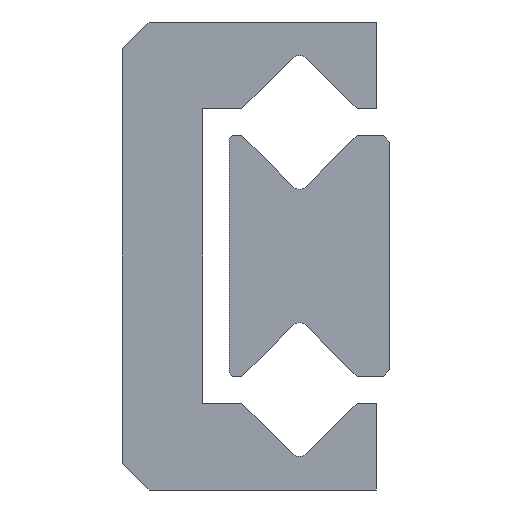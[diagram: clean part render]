
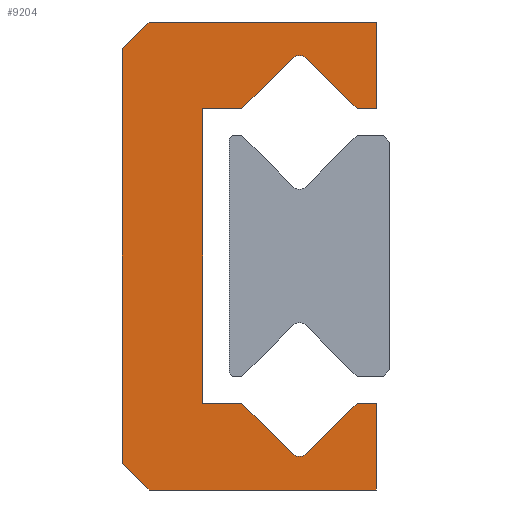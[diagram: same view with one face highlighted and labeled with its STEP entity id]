
A CAD part, left-side view. The second image highlights one B-rep face of the part: STEP entity #9204.
In plain terms, the highlighted planar face has unit normal (-1, 0, 0).
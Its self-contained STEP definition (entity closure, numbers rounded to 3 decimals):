
#296=CIRCLE('',#9991,0.15);
#300=CIRCLE('',#10001,0.15);
#1530=ORIENTED_EDGE('',*,*,#3858,.F.);
#1531=ORIENTED_EDGE('',*,*,#4296,.F.);
#1532=ORIENTED_EDGE('',*,*,#4291,.F.);
#1533=ORIENTED_EDGE('',*,*,#4288,.F.);
#1534=ORIENTED_EDGE('',*,*,#4285,.F.);
#1535=ORIENTED_EDGE('',*,*,#4282,.F.);
#1536=ORIENTED_EDGE('',*,*,#4279,.F.);
#1537=ORIENTED_EDGE('',*,*,#4276,.T.);
#1538=ORIENTED_EDGE('',*,*,#4273,.F.);
#1539=ORIENTED_EDGE('',*,*,#4270,.F.);
#1540=ORIENTED_EDGE('',*,*,#4267,.F.);
#1541=ORIENTED_EDGE('',*,*,#4262,.F.);
#1542=ORIENTED_EDGE('',*,*,#4259,.F.);
#1543=ORIENTED_EDGE('',*,*,#4256,.T.);
#1544=ORIENTED_EDGE('',*,*,#4253,.F.);
#1545=ORIENTED_EDGE('',*,*,#4250,.F.);
#1546=ORIENTED_EDGE('',*,*,#4247,.F.);
#1547=ORIENTED_EDGE('',*,*,#3862,.F.);
#3858=EDGE_CURVE('',#5272,#5273,#6234,.T.);
#3862=EDGE_CURVE('',#5273,#5276,#6238,.T.);
#4247=EDGE_CURVE('',#5276,#5660,#6375,.T.);
#4250=EDGE_CURVE('',#5660,#5662,#6378,.T.);
#4253=EDGE_CURVE('',#5662,#5664,#6381,.T.);
#4256=EDGE_CURVE('',#5666,#5664,#296,.T.);
#4259=EDGE_CURVE('',#5666,#5668,#6385,.T.);
#4262=EDGE_CURVE('',#5668,#5670,#6388,.T.);
#4267=EDGE_CURVE('',#5670,#5674,#6391,.T.);
#4270=EDGE_CURVE('',#5674,#5676,#6394,.T.);
#4273=EDGE_CURVE('',#5676,#5678,#6397,.T.);
#4276=EDGE_CURVE('',#5680,#5678,#300,.T.);
#4279=EDGE_CURVE('',#5680,#5682,#6401,.T.);
#4282=EDGE_CURVE('',#5682,#5684,#6404,.T.);
#4285=EDGE_CURVE('',#5684,#5686,#6407,.T.);
#4288=EDGE_CURVE('',#5686,#5688,#6410,.T.);
#4291=EDGE_CURVE('',#5688,#5690,#6413,.T.);
#4296=EDGE_CURVE('',#5690,#5272,#6416,.T.);
#5272=VERTEX_POINT('',#14013);
#5273=VERTEX_POINT('',#14014);
#5276=VERTEX_POINT('',#14022);
#5660=VERTEX_POINT('',#14792);
#5662=VERTEX_POINT('',#14798);
#5664=VERTEX_POINT('',#14804);
#5666=VERTEX_POINT('',#14810);
#5668=VERTEX_POINT('',#14816);
#5670=VERTEX_POINT('',#14822);
#5674=VERTEX_POINT('',#14832);
#5676=VERTEX_POINT('',#14838);
#5678=VERTEX_POINT('',#14844);
#5680=VERTEX_POINT('',#14850);
#5682=VERTEX_POINT('',#14856);
#5684=VERTEX_POINT('',#14862);
#5686=VERTEX_POINT('',#14868);
#5688=VERTEX_POINT('',#14874);
#5690=VERTEX_POINT('',#14880);
#6234=LINE('',#14012,#7058);
#6238=LINE('',#14021,#7062);
#6375=LINE('',#14791,#7199);
#6378=LINE('',#14797,#7202);
#6381=LINE('',#14803,#7205);
#6385=LINE('',#14815,#7209);
#6388=LINE('',#14821,#7212);
#6391=LINE('',#14831,#7215);
#6394=LINE('',#14837,#7218);
#6397=LINE('',#14843,#7221);
#6401=LINE('',#14855,#7225);
#6404=LINE('',#14861,#7228);
#6407=LINE('',#14867,#7231);
#6410=LINE('',#14873,#7234);
#6413=LINE('',#14879,#7237);
#6416=LINE('',#14889,#7240);
#7058=VECTOR('',#10943,1000.);
#7062=VECTOR('',#10949,1000.);
#7199=VECTOR('',#11584,1000.);
#7202=VECTOR('',#11589,1000.);
#7205=VECTOR('',#11594,1000.);
#7209=VECTOR('',#11606,1000.);
#7212=VECTOR('',#11611,1000.);
#7215=VECTOR('',#11620,1000.);
#7218=VECTOR('',#11625,1000.);
#7221=VECTOR('',#11630,1000.);
#7225=VECTOR('',#11642,1000.);
#7228=VECTOR('',#11647,1000.);
#7231=VECTOR('',#11652,1000.);
#7234=VECTOR('',#11657,1000.);
#7237=VECTOR('',#11662,1000.);
#7240=VECTOR('',#11671,1000.);
#7916=EDGE_LOOP('',(#1530,#1531,#1532,#1533,#1534,#1535,#1536,#1537,#1538,
#1539,#1540,#1541,#1542,#1543,#1544,#1545,#1546,#1547));
#8474=FACE_BOUND('',#7916,.T.);
#8987=PLANE('',#10012);
#9204=ADVANCED_FACE('',(#8474),#8987,.F.);
#9991=AXIS2_PLACEMENT_3D('',#14809,#11599,#11600);
#10001=AXIS2_PLACEMENT_3D('',#14849,#11635,#11636);
#10012=AXIS2_PLACEMENT_3D('',#14892,#11675,#11676);
#10943=DIRECTION('',(0.,-0.707,0.707));
#10949=DIRECTION('',(0.,-1.,0.));
#11584=DIRECTION('',(0.,0.,-1.));
#11589=DIRECTION('',(0.,1.,0.));
#11594=DIRECTION('',(0.,0.707,0.707));
#11599=DIRECTION('',(1.,0.,0.));
#11600=DIRECTION('',(0.,0.,-1.));
#11606=DIRECTION('',(0.,0.707,-0.707));
#11611=DIRECTION('',(0.,1.,0.));
#11620=DIRECTION('',(0.,0.,-1.));
#11625=DIRECTION('',(0.,-1.,0.));
#11630=DIRECTION('',(0.,-0.707,-0.707));
#11635=DIRECTION('',(1.,0.,0.));
#11636=DIRECTION('',(0.,0.,-1.));
#11642=DIRECTION('',(0.,-0.707,0.707));
#11647=DIRECTION('',(0.,-1.,0.));
#11652=DIRECTION('',(0.,0.,-1.));
#11657=DIRECTION('',(0.,1.,0.));
#11662=DIRECTION('',(0.,0.707,0.707));
#11671=DIRECTION('',(0.,0.,1.));
#11675=DIRECTION('',(1.,0.,0.));
#11676=DIRECTION('',(0.,0.,-1.));
#14012=CARTESIAN_POINT('',(-12.5,3.8,3.1));
#14013=CARTESIAN_POINT('',(-12.5,3.8,3.1));
#14014=CARTESIAN_POINT('',(-12.5,3.4,3.5));
#14021=CARTESIAN_POINT('',(-12.5,3.4,3.5));
#14022=CARTESIAN_POINT('',(-12.5,0.,3.5));
#14791=CARTESIAN_POINT('',(-12.5,0.,3.5));
#14792=CARTESIAN_POINT('',(-12.5,0.,2.2));
#14797=CARTESIAN_POINT('',(-12.5,0.,2.2));
#14798=CARTESIAN_POINT('',(-12.5,0.289,2.2));
#14803=CARTESIAN_POINT('',(-12.5,0.289,2.2));
#14804=CARTESIAN_POINT('',(-12.5,1.044,2.955));
#14809=CARTESIAN_POINT('',(-12.5,1.15,2.849));
#14810=CARTESIAN_POINT('',(-12.5,1.256,2.955));
#14815=CARTESIAN_POINT('',(-12.5,1.256,2.955));
#14816=CARTESIAN_POINT('',(-12.5,2.011,2.2));
#14821=CARTESIAN_POINT('',(-12.5,2.011,2.2));
#14822=CARTESIAN_POINT('',(-12.5,2.6,2.2));
#14831=CARTESIAN_POINT('',(-12.5,2.6,2.2));
#14832=CARTESIAN_POINT('',(-12.5,2.6,-2.2));
#14837=CARTESIAN_POINT('',(-12.5,2.6,-2.2));
#14838=CARTESIAN_POINT('',(-12.5,2.011,-2.2));
#14843=CARTESIAN_POINT('',(-12.5,2.011,-2.2));
#14844=CARTESIAN_POINT('',(-12.5,1.256,-2.955));
#14849=CARTESIAN_POINT('',(-12.5,1.15,-2.849));
#14850=CARTESIAN_POINT('',(-12.5,1.044,-2.955));
#14855=CARTESIAN_POINT('',(-12.5,1.044,-2.955));
#14856=CARTESIAN_POINT('',(-12.5,0.289,-2.2));
#14861=CARTESIAN_POINT('',(-12.5,0.289,-2.2));
#14862=CARTESIAN_POINT('',(-12.5,0.,-2.2));
#14867=CARTESIAN_POINT('',(-12.5,0.,-2.2));
#14868=CARTESIAN_POINT('',(-12.5,0.,-3.5));
#14873=CARTESIAN_POINT('',(-12.5,0.,-3.5));
#14874=CARTESIAN_POINT('',(-12.5,3.4,-3.5));
#14879=CARTESIAN_POINT('',(-12.5,3.4,-3.5));
#14880=CARTESIAN_POINT('',(-12.5,3.8,-3.1));
#14889=CARTESIAN_POINT('',(-12.5,3.8,-3.1));
#14892=CARTESIAN_POINT('',(-12.5,1.15,2.849));
